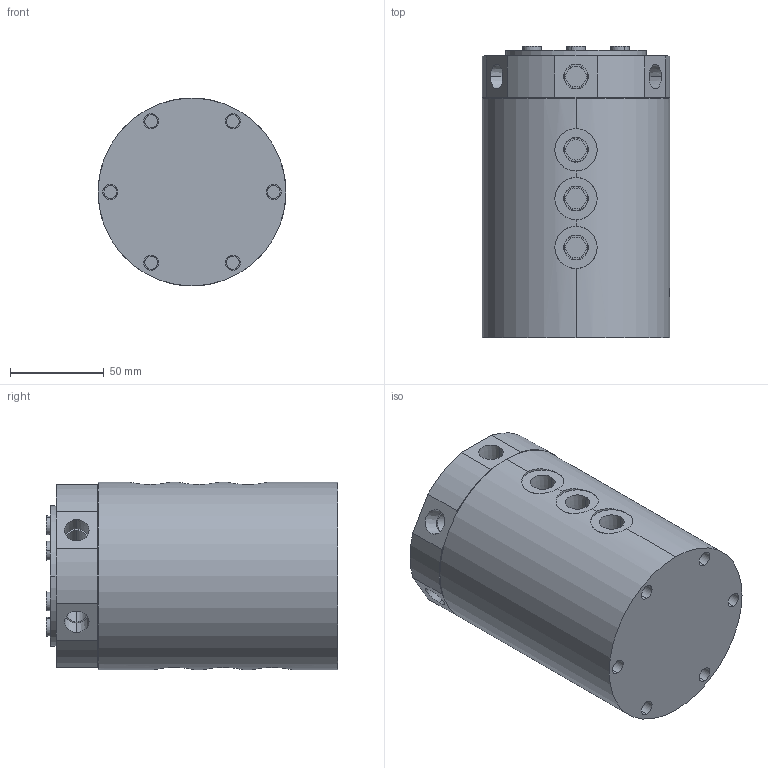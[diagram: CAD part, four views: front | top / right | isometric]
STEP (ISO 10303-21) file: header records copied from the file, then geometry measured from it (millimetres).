
FILE_DESCRIPTION((' '),'2;1');
FILE_NAME( 'PTMA06.x_t.stp', '2025-01-06T11:27:58', (' '), ('--- Datakit www.datakit.com---'), ' Datakit CrossCadWare V2024.1 Dec 21 2023', 'Mastercam 2025', ' ');
FILE_SCHEMA(('AUTOMOTIVE_DESIGN { 1 0 10303 214 1 1 1 1 }'));
Length unit declared in the file: millimetre
Products named in the file (1): PTMA06
Bounding box: 100 x 155.23 x 100 mm (x, y, z)
Volume: 1145519.4 mm3; surface area: 97270 mm2
Topology: 8 solids, 8 shells, 318 faces, 713 edges, 481 vertices
Faces by surface type: plane 134, cylinder 122, cone 62
Entity records: 10001 total; most frequent: CARTESIAN_POINT 2346, DIRECTION 1670, ORIENTED_EDGE 1426, EDGE_CURVE 713, AXIS2_PLACEMENT_3D 677, VERTEX_POINT 481, EDGE_LOOP 400, CIRCLE 358
